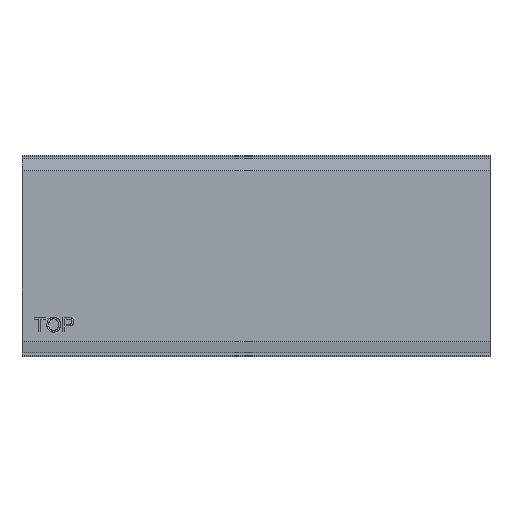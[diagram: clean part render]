
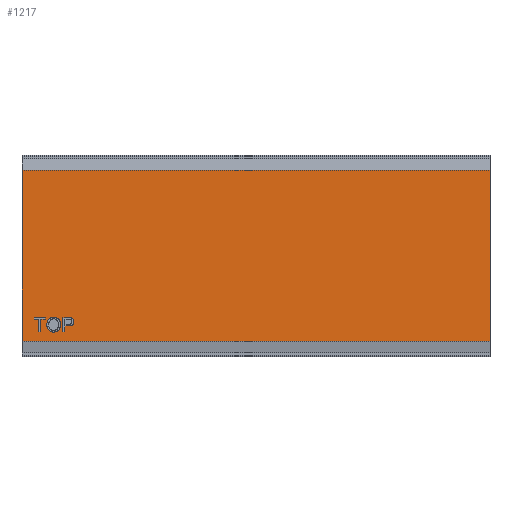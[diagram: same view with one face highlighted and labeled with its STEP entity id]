
A CAD part, top view. The second image highlights one B-rep face of the part: STEP entity #1217.
In plain terms, the highlighted planar face has unit normal (0, 0, 1).
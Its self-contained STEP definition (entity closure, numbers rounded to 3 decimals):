
#243=CARTESIAN_POINT('',(10.621,-29.49,0.0));
#244=VERTEX_POINT('',#243);
#251=CARTESIAN_POINT('',(13.541,-32.563,0.0));
#252=VERTEX_POINT('',#251);
#253=CARTESIAN_POINT('',(13.541,-32.563,0.0));
#254=CARTESIAN_POINT('',(12.676,-32.563,0.0));
#255=CARTESIAN_POINT('',(11.319,-31.731,0.0));
#256=CARTESIAN_POINT('',(10.621,-30.294,0.0));
#257=CARTESIAN_POINT('',(10.621,-29.49,0.0));
#258=QUASI_UNIFORM_CURVE('',2,(#253,#254,#255,#256,#257),.UNSPECIFIED.,.F.,.U.);
#259=EDGE_CURVE('',#252,#244,#258,.T.);
#292=CARTESIAN_POINT('',(16.456,-29.42,0.0));
#293=VERTEX_POINT('',#292);
#294=CARTESIAN_POINT('',(16.456,-29.42,0.0));
#295=CARTESIAN_POINT('',(16.456,-30.346,0.0));
#296=CARTESIAN_POINT('',(15.708,-31.81,0.0));
#297=CARTESIAN_POINT('',(14.331,-32.563,0.0));
#298=CARTESIAN_POINT('',(13.541,-32.563,0.0));
#299=QUASI_UNIFORM_CURVE('',2,(#294,#295,#296,#297,#298),.UNSPECIFIED.,.F.,.U.);
#300=EDGE_CURVE('',#293,#252,#299,.T.);
#333=CARTESIAN_POINT('',(13.541,-26.254,0.0));
#334=VERTEX_POINT('',#333);
#335=CARTESIAN_POINT('',(13.541,-26.254,0.0));
#336=CARTESIAN_POINT('',(14.387,-26.254,0.0));
#337=CARTESIAN_POINT('',(15.745,-27.063,0.0));
#338=CARTESIAN_POINT('',(16.456,-28.504,0.0));
#339=CARTESIAN_POINT('',(16.456,-29.42,0.0));
#340=QUASI_UNIFORM_CURVE('',2,(#335,#336,#337,#338,#339),.UNSPECIFIED.,.F.,.U.);
#341=EDGE_CURVE('',#334,#293,#340,.T.);
#369=CARTESIAN_POINT('',(10.621,-29.49,0.0));
#370=CARTESIAN_POINT('',(10.621,-27.97,0.0));
#371=CARTESIAN_POINT('',(12.253,-26.254,0.0));
#372=CARTESIAN_POINT('',(13.541,-26.254,0.0));
#373=QUASI_UNIFORM_CURVE('',2,(#369,#370,#371,#372),.UNSPECIFIED.,.F.,.U.);
#374=EDGE_CURVE('',#244,#334,#373,.T.);
#413=CARTESIAN_POINT('',(7.208,-32.461,0.0));
#414=VERTEX_POINT('',#413);
#421=CARTESIAN_POINT('',(8.017,-32.461,0.0));
#422=VERTEX_POINT('',#421);
#423=CARTESIAN_POINT('',(8.017,-32.461,0.0));
#424=DIRECTION('',(-1.0,0.0,0.0));
#425=VECTOR('',#424,0.809);
#426=LINE('',#423,#425);
#427=EDGE_CURVE('',#422,#414,#426,.T.);
#452=CARTESIAN_POINT('',(8.017,-27.082,0.0));
#453=VERTEX_POINT('',#452);
#454=CARTESIAN_POINT('',(8.017,-27.082,0.0));
#455=DIRECTION('',(0.0,-1.0,0.0));
#456=VECTOR('',#455,5.379);
#457=LINE('',#454,#456);
#458=EDGE_CURVE('',#453,#422,#457,.T.);
#483=CARTESIAN_POINT('',(10.035,-27.082,0.0));
#484=VERTEX_POINT('',#483);
#485=CARTESIAN_POINT('',(10.035,-27.082,0.0));
#486=DIRECTION('',(-1.0,0.0,0.0));
#487=VECTOR('',#486,2.018);
#488=LINE('',#485,#487);
#489=EDGE_CURVE('',#484,#453,#488,.T.);
#514=CARTESIAN_POINT('',(10.035,-26.361,0.0));
#515=VERTEX_POINT('',#514);
#516=CARTESIAN_POINT('',(10.035,-26.361,0.0));
#517=DIRECTION('',(0.0,-1.0,0.0));
#518=VECTOR('',#517,0.721);
#519=LINE('',#516,#518);
#520=EDGE_CURVE('',#515,#484,#519,.T.);
#545=CARTESIAN_POINT('',(5.2,-26.361,0.0));
#546=VERTEX_POINT('',#545);
#547=CARTESIAN_POINT('',(5.2,-26.361,0.0));
#548=DIRECTION('',(1.0,0.0,0.0));
#549=VECTOR('',#548,4.835);
#550=LINE('',#547,#549);
#551=EDGE_CURVE('',#546,#515,#550,.T.);
#576=CARTESIAN_POINT('',(5.2,-27.082,0.0));
#577=VERTEX_POINT('',#576);
#578=CARTESIAN_POINT('',(5.2,-27.082,0.0));
#579=DIRECTION('',(0.0,1.0,0.0));
#580=VECTOR('',#579,0.721);
#581=LINE('',#578,#580);
#582=EDGE_CURVE('',#577,#546,#581,.T.);
#607=CARTESIAN_POINT('',(7.208,-27.082,0.0));
#608=VERTEX_POINT('',#607);
#609=CARTESIAN_POINT('',(7.208,-27.082,0.0));
#610=DIRECTION('',(-1.0,0.0,0.0));
#611=VECTOR('',#610,2.009);
#612=LINE('',#609,#611);
#613=EDGE_CURVE('',#608,#577,#612,.T.);
#636=CARTESIAN_POINT('',(7.208,-32.461,0.0));
#637=DIRECTION('',(0.0,1.0,0.0));
#638=VECTOR('',#637,5.379);
#639=LINE('',#636,#638);
#640=EDGE_CURVE('',#414,#608,#639,.T.);
#877=CARTESIAN_POINT('',(17.493,-32.461,0.0));
#878=VERTEX_POINT('',#877);
#885=CARTESIAN_POINT('',(18.302,-32.461,0.0));
#886=VERTEX_POINT('',#885);
#887=CARTESIAN_POINT('',(18.302,-32.461,0.0));
#888=DIRECTION('',(-1.0,0.0,0.0));
#889=VECTOR('',#888,0.809);
#890=LINE('',#887,#889);
#891=EDGE_CURVE('',#886,#878,#890,.T.);
#916=CARTESIAN_POINT('',(18.302,-29.983,0.0));
#917=VERTEX_POINT('',#916);
#918=CARTESIAN_POINT('',(18.302,-29.983,0.0));
#919=DIRECTION('',(0.0,-1.0,0.0));
#920=VECTOR('',#919,2.478);
#921=LINE('',#918,#920);
#922=EDGE_CURVE('',#917,#886,#921,.T.);
#947=CARTESIAN_POINT('',(19.869,-29.983,0.0));
#948=VERTEX_POINT('',#947);
#949=CARTESIAN_POINT('',(19.869,-29.983,0.0));
#950=DIRECTION('',(-1.0,0.0,0.0));
#951=VECTOR('',#950,1.567);
#952=LINE('',#949,#951);
#953=EDGE_CURVE('',#948,#917,#952,.T.);
#983=CARTESIAN_POINT('',(22.152,-28.128,0.0));
#984=VERTEX_POINT('',#983);
#985=CARTESIAN_POINT('',(22.152,-28.128,0.0));
#986=CARTESIAN_POINT('',(22.152,-28.904,0.0));
#987=CARTESIAN_POINT('',(21.161,-29.983,0.0));
#988=CARTESIAN_POINT('',(19.869,-29.983,0.0));
#989=QUASI_UNIFORM_CURVE('',2,(#985,#986,#987,#988),.UNSPECIFIED.,.F.,.U.);
#990=EDGE_CURVE('',#984,#948,#989,.T.);
#1023=CARTESIAN_POINT('',(20.724,-26.422,0.0));
#1024=VERTEX_POINT('',#1023);
#1025=CARTESIAN_POINT('',(20.724,-26.422,0.0));
#1026=CARTESIAN_POINT('',(21.175,-26.496,0.0));
#1027=CARTESIAN_POINT('',(21.78,-26.914,0.0));
#1028=CARTESIAN_POINT('',(22.152,-27.672,0.0));
#1029=CARTESIAN_POINT('',(22.152,-28.128,0.0));
#1030=QUASI_UNIFORM_CURVE('',2,(#1025,#1026,#1027,#1028,#1029),.UNSPECIFIED.,.F.,.U.);
#1031=EDGE_CURVE('',#1024,#984,#1030,.T.);
#1058=CARTESIAN_POINT('',(19.794,-26.361,0.0));
#1059=VERTEX_POINT('',#1058);
#1060=CARTESIAN_POINT('',(19.794,-26.361,0.0));
#1061=CARTESIAN_POINT('',(20.403,-26.361,0.0));
#1062=CARTESIAN_POINT('',(20.724,-26.422,0.0));
#1063=QUASI_UNIFORM_CURVE('',2,(#1060,#1061,#1062),.UNSPECIFIED.,.F.,.U.);
#1064=EDGE_CURVE('',#1059,#1024,#1063,.T.);
#1089=CARTESIAN_POINT('',(17.493,-26.361,0.0));
#1090=VERTEX_POINT('',#1089);
#1091=CARTESIAN_POINT('',(17.493,-26.361,0.0));
#1092=DIRECTION('',(1.0,0.0,0.0));
#1093=VECTOR('',#1092,2.301);
#1094=LINE('',#1091,#1093);
#1095=EDGE_CURVE('',#1090,#1059,#1094,.T.);
#1118=CARTESIAN_POINT('',(17.493,-32.461,0.0));
#1119=DIRECTION('',(0.0,1.0,0.0));
#1120=VECTOR('',#1119,6.1);
#1121=LINE('',#1118,#1120);
#1122=EDGE_CURVE('',#878,#1090,#1121,.T.);
#1152=CARTESIAN_POINT('',(0.0,0.0,0.0));
#1153=DIRECTION('',(0.0,0.0,1.0));
#1154=DIRECTION('',(1.0,0.0,0.0));
#1155=AXIS2_PLACEMENT_3D('',#1152,#1153,#1154);
#1156=PLANE('',#1155);
#1157=CARTESIAN_POINT('',(200.0,-36.5,0.0));
#1158=VERTEX_POINT('',#1157);
#1159=CARTESIAN_POINT('',(200.0,36.5,0.0));
#1160=VERTEX_POINT('',#1159);
#1161=CARTESIAN_POINT('',(200.0,-36.5,0.0));
#1162=DIRECTION('',(0.0,1.0,0.0));
#1163=VECTOR('',#1162,73.0);
#1164=LINE('',#1161,#1163);
#1165=EDGE_CURVE('',#1158,#1160,#1164,.T.);
#1166=ORIENTED_EDGE('',*,*,#1165,.T.);
#1167=CARTESIAN_POINT('',(0.0,36.5,0.0));
#1168=VERTEX_POINT('',#1167);
#1169=CARTESIAN_POINT('',(0.0,36.5,0.0));
#1170=DIRECTION('',(1.0,0.0,0.0));
#1171=VECTOR('',#1170,200.0);
#1172=LINE('',#1169,#1171);
#1173=EDGE_CURVE('',#1168,#1160,#1172,.T.);
#1174=ORIENTED_EDGE('',*,*,#1173,.F.);
#1175=CARTESIAN_POINT('',(0.0,-36.5,0.0));
#1176=VERTEX_POINT('',#1175);
#1177=CARTESIAN_POINT('',(0.0,36.5,0.0));
#1178=DIRECTION('',(0.0,-1.0,0.0));
#1179=VECTOR('',#1178,73.0);
#1180=LINE('',#1177,#1179);
#1181=EDGE_CURVE('',#1168,#1176,#1180,.T.);
#1182=ORIENTED_EDGE('',*,*,#1181,.T.);
#1183=CARTESIAN_POINT('',(0.0,-36.5,0.0));
#1184=DIRECTION('',(1.0,0.0,0.0));
#1185=VECTOR('',#1184,200.0);
#1186=LINE('',#1183,#1185);
#1187=EDGE_CURVE('',#1176,#1158,#1186,.T.);
#1188=ORIENTED_EDGE('',*,*,#1187,.T.);
#1189=EDGE_LOOP('',(#1166,#1174,#1182,#1188));
#1190=FACE_OUTER_BOUND('',#1189,.T.);
#1191=ORIENTED_EDGE('',*,*,#259,.T.);
#1192=ORIENTED_EDGE('',*,*,#374,.T.);
#1193=ORIENTED_EDGE('',*,*,#341,.T.);
#1194=ORIENTED_EDGE('',*,*,#300,.T.);
#1195=EDGE_LOOP('',(#1191,#1192,#1193,#1194));
#1196=FACE_BOUND('',#1195,.T.);
#1197=ORIENTED_EDGE('',*,*,#427,.T.);
#1198=ORIENTED_EDGE('',*,*,#640,.T.);
#1199=ORIENTED_EDGE('',*,*,#613,.T.);
#1200=ORIENTED_EDGE('',*,*,#582,.T.);
#1201=ORIENTED_EDGE('',*,*,#551,.T.);
#1202=ORIENTED_EDGE('',*,*,#520,.T.);
#1203=ORIENTED_EDGE('',*,*,#489,.T.);
#1204=ORIENTED_EDGE('',*,*,#458,.T.);
#1205=EDGE_LOOP('',(#1197,#1198,#1199,#1200,#1201,#1202,#1203,#1204));
#1206=FACE_BOUND('',#1205,.T.);
#1207=ORIENTED_EDGE('',*,*,#891,.T.);
#1208=ORIENTED_EDGE('',*,*,#1122,.T.);
#1209=ORIENTED_EDGE('',*,*,#1095,.T.);
#1210=ORIENTED_EDGE('',*,*,#1064,.T.);
#1211=ORIENTED_EDGE('',*,*,#1031,.T.);
#1212=ORIENTED_EDGE('',*,*,#990,.T.);
#1213=ORIENTED_EDGE('',*,*,#953,.T.);
#1214=ORIENTED_EDGE('',*,*,#922,.T.);
#1215=EDGE_LOOP('',(#1207,#1208,#1209,#1210,#1211,#1212,#1213,#1214));
#1216=FACE_BOUND('',#1215,.T.);
#1217=ADVANCED_FACE('',(#1190,#1196,#1206,#1216),#1156,.T.);
